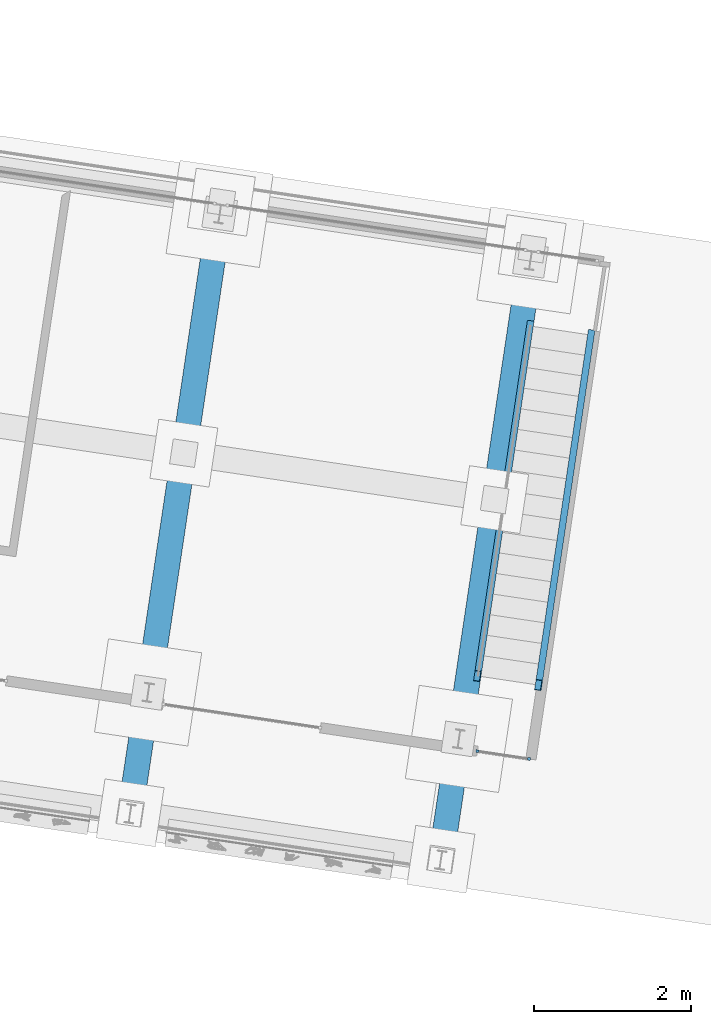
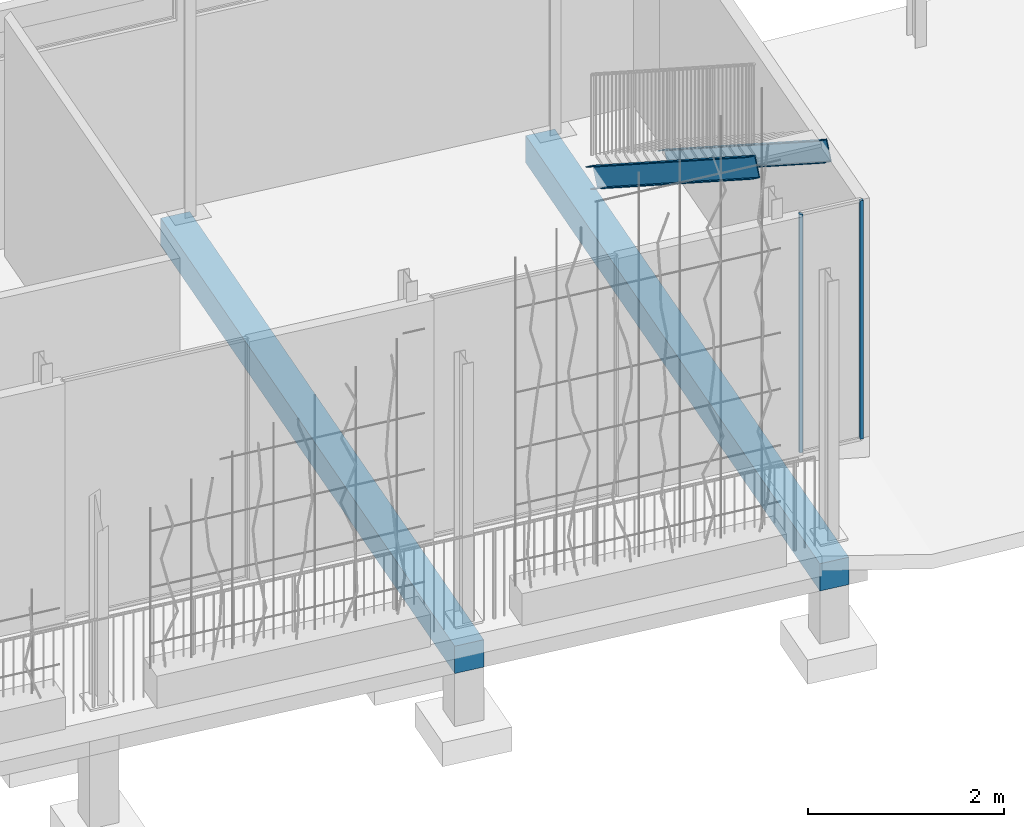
# One storey, part 95 of 142: 4 members, 2 beams, 2 elements without a shape of their own.
"""IFC4 building model written with IfcOpenShell, lengths in metres."""

from ifc_helpers import new_model, si_unit, direction, frame, origin_with_axes, place, context, subcontext, project, spatial, polyline, rectangle, outline, extrude, material, material_profile, profile_set, profile_usage, type_object, element, aggregate, save


model = new_model("IFC4")

# Units and contexts
model_context = context("Model", 3, precision=1e-05, world=origin_with_axes(), true_north=direction((0.0, 1.0)))
body_context = subcontext(model_context, "Body", "Model", "MODEL_VIEW")
ifc_project = project(units=[si_unit("LENGTHUNIT", "METRE"), si_unit("AREAUNIT", "SQUARE_METRE"), si_unit("VOLUMEUNIT", "CUBIC_METRE")], contexts=[model_context])

# Site, building, storey
site_placement = place(None, origin_with_axes())
site = spatial("IfcSite", under=ifc_project, at=site_placement, Name="Lares · Rua das Mercês · artigo 4771")
building_placement = place(site_placement, frame((15.0, 9.7, 14.65), z_axis=(0.0, 0.0, 1.0), x_axis=(0.989015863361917, -0.147809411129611, 0.0)))
building = spatial("IfcBuilding", under=site, at=building_placement, Name="Casa Sobreposta")
storey_placement = place(building_placement, origin_with_axes())
storey = spatial("IfcBuildingStorey", under=building, at=storey_placement, Name="00 · Habitação e estacionamento", Elevation=14.65)

# Members
ifc_material_1 = material(Name="Aço pintado / Stahl lackiert", Category="steel")
ifc_material_profile_1 = material_profile(ifc_material_1, rectangle(XDim=0.035, YDim=0.035))
ifc_profile_set_1 = profile_set([ifc_material_profile_1], Name="R0.035")
ifc_profile_usage_1 = profile_usage(ifc_profile_set_1)
member_type_1 = type_object("IfcMemberType", Name="R0.035 / steel", PredefinedType="NOTDEFINED", material=ifc_profile_set_1)
member_1_placement = place(storey_placement, frame((24.256, 0.0, 0.0), z_axis=(0.0, 0.0, 1.0), x_axis=(1.0, 0.0, 0.0)))
element("IfcMember", 1, at=member_1_placement, inside=storey, type_object=member_type_1, material=ifc_profile_usage_1, Name="Folha de correr sul 12 · montante", context=body_context, shape_type="SweptSolid", body=[
    extrude(rectangle(XDim=0.035, YDim=0.035), origin_with_axes(), (0.0, 0.0, 1.0), 2.968),
])
ifc_profile_usage_2 = profile_usage(ifc_profile_set_1)
member_2_placement = place(storey_placement, frame((24.92, 0.0, 0.0), z_axis=(0.0, 0.0, 1.0), x_axis=(1.0, 0.0, 0.0)))
element("IfcMember", 2, at=member_2_placement, inside=storey, type_object=member_type_1, material=ifc_profile_usage_2, Name="Folha de correr sul 12 · montante", context=body_context, shape_type="SweptSolid", body=[
    extrude(rectangle(XDim=0.035, YDim=0.035), origin_with_axes(), (0.0, 0.0, 1.0), 2.968),
])

# Stair, members
stair_placement = place(storey_placement, origin_with_axes())
stair = element("IfcStair", 3, at=stair_placement, inside=storey, Name="Escada garagem", PredefinedType="STRAIGHT_RUN_STAIR")
ifc_material_profile_2 = material_profile(ifc_material_1, outline(polyline([(-0.0425, -0.12), (0.0425, -0.12), (0.0425, -0.1102), (-0.0325, -0.1102), (-0.0325, 0.1102), (0.0425, 0.1102), (0.0425, 0.12), (-0.0425, 0.12), (-0.0425, -0.12)])))
ifc_profile_set_2 = profile_set([ifc_material_profile_2], Name="C240")
ifc_profile_usage_3 = profile_usage(ifc_profile_set_2)
member_type_2 = type_object("IfcMemberType", Name="C240 / steel", PredefinedType="NOTDEFINED", material=ifc_profile_set_2)
member_3_placement = place(stair_placement, frame((24.1175, 5.4525, -0.1), z_axis=(0.0, -0.827216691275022, 0.561883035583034), x_axis=(-1.0, 0.0, 0.0)))
member_3 = element("IfcMember", 4, at=member_3_placement, type_object=member_type_2, material=ifc_profile_usage_3, Name="Longarina metálica garagem", context=body_context, shape_type="SweptSolid", body=[
    extrude(outline(polyline([(-0.0425, -0.12), (0.0425, -0.12), (0.0425, -0.1102), (-0.0325, -0.1102), (-0.0325, 0.1102), (0.0425, 0.1102), (0.0425, 0.12), (-0.0425, 0.12), (-0.0425, -0.12)])), origin_with_axes(), (0.0, 0.0, 1.0), 5.44597328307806),
])
ifc_profile_usage_4 = profile_usage(ifc_profile_set_2)
member_4_placement = place(stair_placement, frame((24.9025, 5.4525, -0.1), z_axis=(0.0, -0.827216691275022, 0.561883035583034), x_axis=(-1.0, 0.0, 0.0)))
member_4 = element("IfcMember", 5, at=member_4_placement, type_object=member_type_2, material=ifc_profile_usage_4, Name="Longarina metálica garagem", context=body_context, shape_type="SweptSolid", body=[
    extrude(outline(polyline([(-0.0425, -0.12), (0.0425, -0.12), (0.0425, -0.1102), (-0.0325, -0.1102), (-0.0325, 0.1102), (0.0425, 0.1102), (0.0425, 0.12), (-0.0425, 0.12), (-0.0425, -0.12)])), origin_with_axes(), (0.0, 0.0, 1.0), 5.44597328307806),
])
aggregate(stair, [member_3, member_4])

# Assembly, beams
assembly_placement = place(storey_placement, origin_with_axes())
assembly = element("IfcElementAssembly", 6, at=assembly_placement, inside=storey, Name="Pódio · terraço, casa térrea e cisterna", ObjectType="CISTERN_PODIUM", PredefinedType="USERDEFINED")
ifc_material_2 = material(Name="Betão armado / Stahlbeton", Category="concrete")
beam_1_placement = place(assembly_placement, frame((0.0, 0.0, -0.59), z_axis=(0.0, 0.0, 1.0), x_axis=(1.0, 0.0, 0.0)))
beam_1 = element("IfcBeam", 7, at=beam_1_placement, material=ifc_material_2, Name="Pódio suspenso · viga transversal", context=body_context, shape_type="SweptSolid", body=[
    extrude(outline(polyline([(20.16, -1.59), (20.16, 6.59), (19.84, 6.59), (19.84, -1.59), (20.16, -1.59)])), origin_with_axes(), (0.0, 0.0, 1.0), 0.34),
])
beam_2_placement = place(assembly_placement, frame((0.0, 0.0, -0.59), z_axis=(0.0, 0.0, 1.0), x_axis=(1.0, 0.0, 0.0)))
beam_2 = element("IfcBeam", 8, at=beam_2_placement, material=ifc_material_2, Name="Pódio suspenso · viga transversal", context=body_context, shape_type="SweptSolid", body=[
    extrude(outline(polyline([(24.16, -1.59), (24.16, 6.59), (23.84, 6.59), (23.84, -1.59), (24.16, -1.59)])), origin_with_axes(), (0.0, 0.0, 1.0), 0.34),
])
aggregate(assembly, [beam_1, beam_2])

save(model, "model.ifc")
